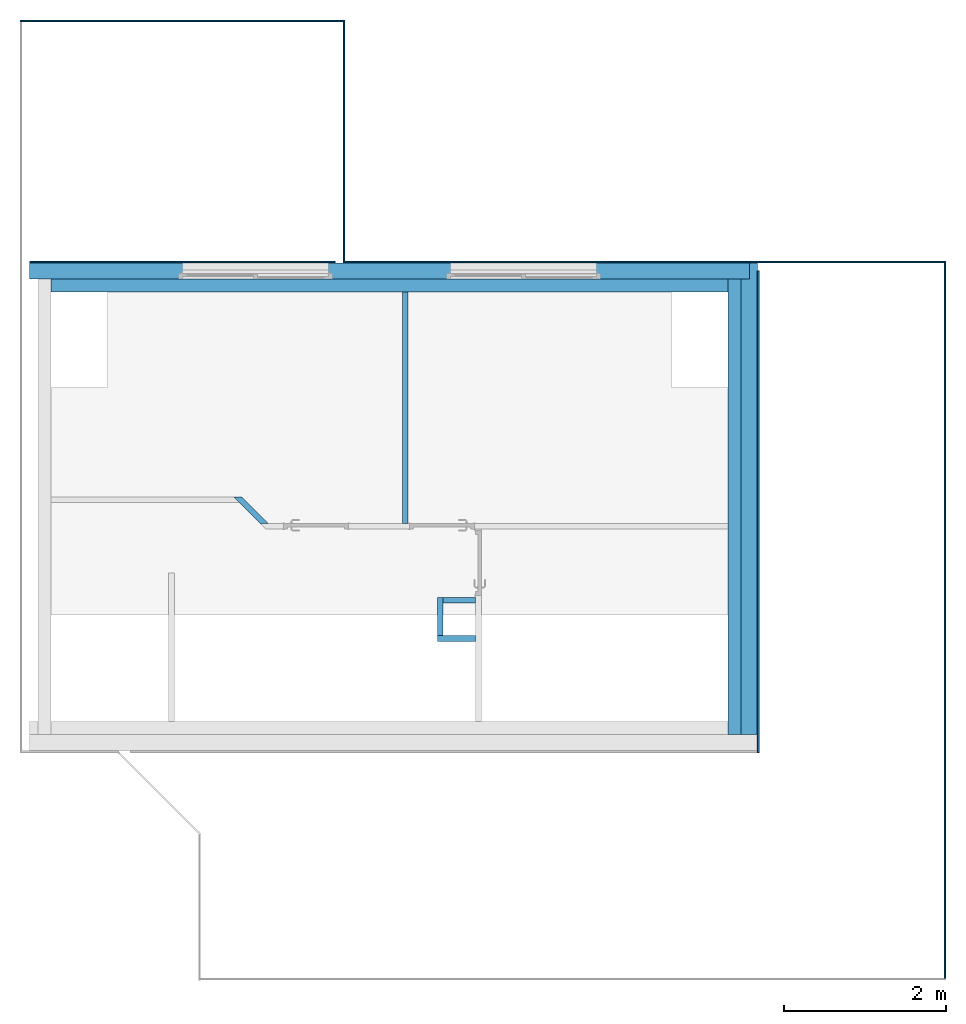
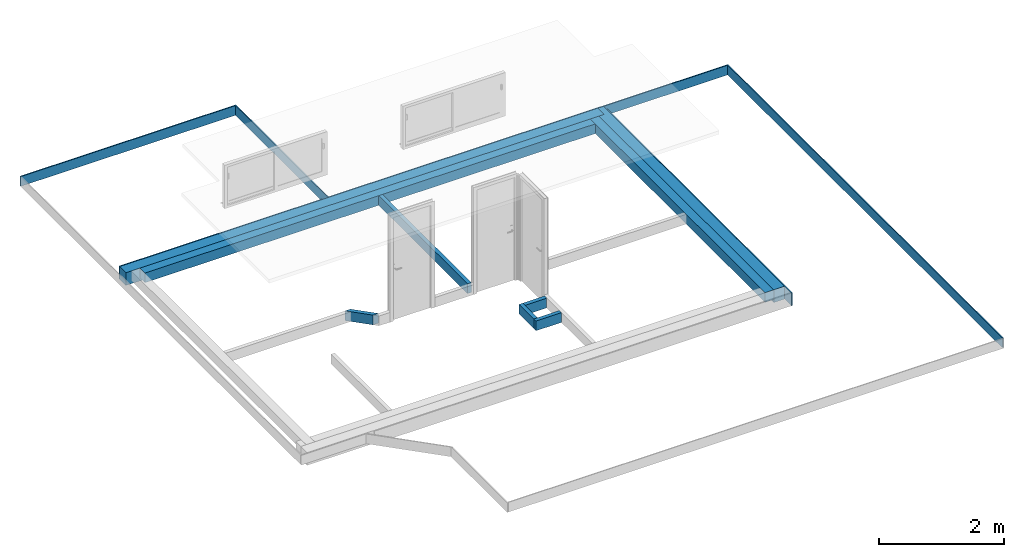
# One storey, part 4 of 5: 16 walls.
"""IFC2X3 building model written with IfcOpenShell, lengths in centimetres."""

from ifc_helpers import new_model, entity, si_unit, converted_unit, derived_unit, direction, frame, frame_2d, origin, place, context, subcontext, project, spatial, polyline, rectangle, outline, extrude, clip, halfspace, material, layer, layer_set, layer_usage, type_object, element, save


model = new_model("IFC2X3")

# Units and contexts
model_context = context("Model", 3, precision=0.001, world=origin(), true_north=direction((6.12303176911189e-17, 1.0)))
body_context = subcontext(model_context, "Body", "Model", "MODEL_VIEW")
ifc_project = project(units=[si_unit("LENGTHUNIT", "METRE", prefix="CENTI"), si_unit("AREAUNIT", "SQUARE_METRE"), si_unit("VOLUMEUNIT", "CUBIC_METRE"), converted_unit("PLANEANGLEUNIT", "DEGREE", entity("IfcRatioMeasure", 0.0174532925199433), si_unit("PLANEANGLEUNIT", "RADIAN"), dimensions=[0, 0, 0, 0, 0, 0, 0]), si_unit("MASSUNIT", "GRAM", prefix="KILO"), derived_unit("MASSDENSITYUNIT", [(si_unit("MASSUNIT", "GRAM", prefix="KILO"), 1), (si_unit("LENGTHUNIT", "METRE"), -3)]), derived_unit("MOMENTOFINERTIAUNIT", [(si_unit("LENGTHUNIT", "METRE"), 4)]), si_unit("TIMEUNIT", "SECOND"), si_unit("FREQUENCYUNIT", "HERTZ"), si_unit("THERMODYNAMICTEMPERATUREUNIT", "DEGREE_CELSIUS"), derived_unit("THERMALTRANSMITTANCEUNIT", [(si_unit("MASSUNIT", "GRAM", prefix="KILO"), 1), (si_unit("THERMODYNAMICTEMPERATUREUNIT", "KELVIN"), -1), (si_unit("TIMEUNIT", "SECOND"), -3)]), derived_unit("VOLUMETRICFLOWRATEUNIT", [(si_unit("LENGTHUNIT", "METRE"), 3), (si_unit("TIMEUNIT", "SECOND"), -1)]), si_unit("ELECTRICCURRENTUNIT", "AMPERE"), si_unit("ELECTRICVOLTAGEUNIT", "VOLT"), si_unit("POWERUNIT", "WATT"), si_unit("FORCEUNIT", "NEWTON", prefix="KILO"), si_unit("ILLUMINANCEUNIT", "LUX"), si_unit("LUMINOUSFLUXUNIT", "LUMEN"), si_unit("LUMINOUSINTENSITYUNIT", "CANDELA"), derived_unit("USERDEFINED", [(si_unit("MASSUNIT", "GRAM", prefix="KILO"), -1), (si_unit("LENGTHUNIT", "METRE"), -2), (si_unit("TIMEUNIT", "SECOND"), 3), (si_unit("LUMINOUSFLUXUNIT", "LUMEN"), 1)]), derived_unit("LINEARVELOCITYUNIT", [(si_unit("LENGTHUNIT", "METRE"), 1), (si_unit("TIMEUNIT", "SECOND"), -1)]), si_unit("PRESSUREUNIT", "PASCAL"), derived_unit("USERDEFINED", [(si_unit("LENGTHUNIT", "METRE"), -2), (si_unit("MASSUNIT", "GRAM", prefix="KILO"), 1), (si_unit("TIMEUNIT", "SECOND"), -2)]), derived_unit("LINEARFORCEUNIT", [(si_unit("MASSUNIT", "GRAM", prefix="KILO"), 1), (si_unit("LENGTHUNIT", "METRE"), 1), (si_unit("TIMEUNIT", "SECOND"), -2), (si_unit("LENGTHUNIT", "METRE"), -1)]), derived_unit("PLANARFORCEUNIT", [(si_unit("MASSUNIT", "GRAM", prefix="KILO"), 1), (si_unit("LENGTHUNIT", "METRE"), 1), (si_unit("TIMEUNIT", "SECOND"), -2), (si_unit("LENGTHUNIT", "METRE"), -2)])], contexts=[model_context])

# Site, building, storey
site_placement = place(None, origin())
site = spatial("IfcSite", under=ifc_project, at=site_placement, Name="Surface", CompositionType="ELEMENT")
building_placement = place(site_placement, origin())
building = spatial("IfcBuilding", under=site, at=building_placement, CompositionType="ELEMENT")
storey_placement = place(building_placement, frame((0.0, 0.0, 263.0)))
storey = spatial("IfcBuildingStorey", under=building, at=storey_placement, Name="2.63_Etage", CompositionType="ELEMENT", Elevation=263.0)

# Walls
ifc_material_1 = material(Name="Maçonnerie - Béton")
ifc_layer_1 = layer(ifc_material_1, 20.0)
ifc_layer_set_1 = layer_set([ifc_layer_1], Name="Mur de base:Mur 20")
ifc_layer_usage_1 = layer_usage(ifc_layer_set_1, "AXIS2", "POSITIVE", -10.0)
wall_type_1 = type_object("IfcWallType", Name="Mur de base:Mur 20", PredefinedType="STANDARD", material=ifc_layer_set_1)
wall_1_placement = place(storey_placement, frame((-882.177260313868, 711.99231712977, -6.0), z_axis=(0.0, 0.0, 1.0), x_axis=(-1.0, 0.0, 0.0)))
element("IfcWallStandardCase", 1, at=wall_1_placement, inside=storey, type_object=wall_type_1, material=ifc_layer_usage_1, Name="Mur de base:Mur 20", ObjectType="Mur de base:Mur 20", context=body_context, shape_type="Clipping", body=[
    clip(extrude(rectangle(XDim=896.000000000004, YDim=20.0, at=frame_2d((448.000000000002, -4.44089209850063e-15), x_axis=(-1.0, 0.0))), origin(), (0.0, 0.0, 1.0), 24.9999999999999), halfspace(frame((0.0, 0.0, -6.0)), True)),
])
ifc_layer_usage_2 = layer_usage(ifc_layer_set_1, "AXIS2", "NEGATIVE", 10.0)
wall_2_placement = place(storey_placement, frame((-892.177260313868, 721.992317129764, -6.0), z_axis=(0.0, 0.0, 1.0), x_axis=(0.0, -1.0, 0.0)))
element("IfcWallStandardCase", 2, at=wall_2_placement, inside=storey, type_object=wall_type_1, material=ifc_layer_usage_2, Name="Mur de base:Mur 20", ObjectType="Mur de base:Mur 20", context=body_context, shape_type="Clipping", body=[
    clip(extrude(outline(polyline([(581.0, -10.0), (581.0, 10.0), (0.0, 10.0), (0.0, 0.0), (20.0, 0.0), (20.0, -10.0), (581.0, -10.0)])), origin(), (0.0, 0.0, 1.0), 24.9999999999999), halfspace(frame((0.0, 0.0, -6.0)), True)),
])
ifc_material_2 = material(Name="Maçonnerie - Enduit")
ifc_layer_2 = layer(ifc_material_2, 2.0)
ifc_layer_set_2 = layer_set([ifc_layer_2], Name="Mur de base:Enduit 2")
ifc_layer_usage_3 = layer_usage(ifc_layer_set_2, "AXIS2", "POSITIVE", -1.0)
wall_type_2 = type_object("IfcWallType", Name="Mur de base:Enduit 2", PredefinedType="STANDARD", material=ifc_layer_set_2)
wall_3_placement = place(storey_placement, frame((-651.177260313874, -159.007682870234, 0.0), z_axis=(0.0, 0.0, 1.0), x_axis=(0.0, 1.0, 0.0)))
element("IfcWallStandardCase", 3, at=wall_3_placement, inside=storey, type_object=wall_type_2, material=ifc_layer_usage_3, Name="Mur de base:Enduit 2", ObjectType="Mur de base:Enduit 2", context=body_context, shape_type="Clipping", body=[
    clip(extrude(rectangle(XDim=882.999999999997, YDim=1.99999999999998, at=frame_2d((441.499999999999, 1.55431223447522e-15), x_axis=(-1.0, 0.0))), origin(), (0.0, 0.0, 1.0), 19.0), halfspace(frame((0.0, 0.0, -271.0)), True)),
])
ifc_layer_usage_4 = layer_usage(ifc_layer_set_2, "AXIS2", "POSITIVE", -1.0)
wall_4_placement = place(storey_placement, frame((-652.177260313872, 722.992317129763, 0.0), z_axis=(0.0, 0.0, 1.0), x_axis=(-1.0, 0.0, 0.0)))
element("IfcWallStandardCase", 4, at=wall_4_placement, inside=storey, type_object=wall_type_2, material=ifc_layer_usage_4, Name="Mur de base:Enduit 2", ObjectType="Mur de base:Enduit 2", context=body_context, shape_type="Clipping", body=[
    clip(extrude(rectangle(XDim=239.999999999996, YDim=1.99999999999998, at=frame_2d((119.999999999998, 7.27196081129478e-15), x_axis=(-1.0, 0.0))), origin(), (0.0, 0.0, 1.0), 19.0), halfspace(frame((0.0, 0.0, -271.0)), True)),
])
ifc_layer_usage_5 = layer_usage(ifc_layer_set_2, "AXIS2", "POSITIVE", -1.0)
wall_5_placement = place(storey_placement, frame((-1391.17726031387, 723.992317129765, 0.0), z_axis=(0.0, 0.0, 1.0), x_axis=(0.0, 1.0, 0.0)))
element("IfcWallStandardCase", 5, at=wall_5_placement, inside=storey, type_object=wall_type_2, material=ifc_layer_usage_5, Name="Mur de base:Enduit 2", ObjectType="Mur de base:Enduit 2", context=body_context, shape_type="Clipping", body=[
    clip(extrude(rectangle(XDim=297.0, YDim=1.99999999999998, at=frame_2d((148.5, 1.49880108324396e-15), x_axis=(-1.0, 0.0))), origin(), (0.0, 0.0, 1.0), 19.0), halfspace(frame((0.0, 0.0, -271.0)), True)),
])
ifc_layer_usage_6 = layer_usage(ifc_layer_set_2, "AXIS2", "POSITIVE", -1.0)
wall_6_placement = place(storey_placement, frame((-1392.17726031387, 1019.99231712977, 0.0), z_axis=(0.0, 0.0, 1.0), x_axis=(-1.0, 0.0, 0.0)))
element("IfcWallStandardCase", 6, at=wall_6_placement, inside=storey, type_object=wall_type_2, material=ifc_layer_usage_6, Name="Mur de base:Enduit 2", ObjectType="Mur de base:Enduit 2", context=body_context, shape_type="Clipping", body=[
    clip(extrude(rectangle(XDim=398.0, YDim=1.99999999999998, at=frame_2d((199.0, 3.27515792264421e-15), x_axis=(-1.0, 0.0))), origin(), (0.0, 0.0, 1.0), 19.0), halfspace(frame((0.0, 0.0, -271.0)), True)),
])
ifc_layer_usage_7 = layer_usage(ifc_layer_set_2, "AXIS2", "POSITIVE", -1.0)
wall_7_placement = place(storey_placement, frame((-882.177260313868, 722.992317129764, 0.0), z_axis=(0.0, 0.0, 1.0), x_axis=(-1.0, 0.0, 0.0)))
element("IfcWallStandardCase", 7, at=wall_7_placement, inside=storey, type_object=wall_type_2, material=ifc_layer_usage_7, Name="Mur de base:Enduit 2", ObjectType="Mur de base:Enduit 2", context=body_context, shape_type="Clipping", body=[
    clip(extrude(rectangle(XDim=500.000000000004, YDim=1.99999999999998, at=frame_2d((260.000000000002, 2.48134846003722e-14), x_axis=(-1.0, 0.0))), origin(), (0.0, 0.0, 1.0), 19.0), halfspace(frame((0.0, 0.0, -271.0)), True)),
])
ifc_layer_usage_8 = layer_usage(ifc_layer_set_2, "AXIS2", "NEGATIVE", 1.0)
wall_8_placement = place(storey_placement, frame((-881.177260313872, 711.992317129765, -6.0), z_axis=(0.0, 0.0, 1.0), x_axis=(0.0, -1.0, 0.0)))
element("IfcWallStandardCase", 8, at=wall_8_placement, inside=storey, type_object=wall_type_2, material=ifc_layer_usage_8, Name="Mur de base:Enduit 2", ObjectType="Mur de base:Enduit 2", context=body_context, shape_type="Clipping", body=[
    clip(extrude(rectangle(XDim=592.999999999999, YDim=1.99999999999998, at=frame_2d((296.5, -7.71605002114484e-15), x_axis=(-1.0, 0.0))), origin(), (0.0, 0.0, 1.0), 24.9999999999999), halfspace(frame((0.0, 0.0, -6.0)), True)),
])
ifc_layer_usage_9 = layer_usage(ifc_layer_set_2, "AXIS2", "NEGATIVE", 1.0)
wall_9_placement = place(storey_placement, frame((-1778.17726031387, 722.992317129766, -6.0)))
element("IfcWallStandardCase", 9, at=wall_9_placement, inside=storey, type_object=wall_type_2, material=ifc_layer_usage_9, Name="Mur de base:Enduit 2", ObjectType="Mur de base:Enduit 2", context=body_context, shape_type="Clipping", body=[
    clip(extrude(rectangle(XDim=376.0, YDim=1.99999999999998, at=frame_2d((188.0, 3.3362201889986e-14), x_axis=(-1.0, 0.0))), origin(), (0.0, 0.0, 1.0), 24.9999999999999), halfspace(frame((0.0, 0.0, -6.0)), True)),
])
ifc_material_3 = material(Name="Isolant rigide")
ifc_layer_3 = layer(ifc_material_3, 16.0)
ifc_layer_set_3 = layer_set([ifc_layer_3], Name="Mur de base:Doublage 16")
ifc_layer_usage_10 = layer_usage(ifc_layer_set_3, "AXIS2", "POSITIVE", -8.0)
wall_type_3 = type_object("IfcWallType", Name="Mur de base:Doublage 16", PredefinedType="STANDARD", material=ifc_layer_set_3)
wall_10_placement = place(storey_placement, frame((-910.177260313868, 701.99231712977, 0.0), z_axis=(0.0, 0.0, 1.0), x_axis=(0.0, -1.0, 0.0)))
element("IfcWallStandardCase", 10, at=wall_10_placement, inside=storey, type_object=wall_type_3, material=ifc_layer_usage_10, Name="Mur de base:Doublage 16", ObjectType="Mur de base:Doublage 16", context=body_context, shape_type="Clipping", body=[
    clip(extrude(rectangle(XDim=561.0, YDim=16.0, at=frame_2d((280.5, 0.0), x_axis=(-1.0, 0.0))), origin(), (0.0, 0.0, 1.0), 19.0), halfspace(origin(), True)),
])
ifc_layer_usage_11 = layer_usage(ifc_layer_set_3, "AXIS2", "POSITIVE", -8.0)
wall_11_placement = place(storey_placement, frame((-1752.17726031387, 693.992317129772, 0.0)))
element("IfcWallStandardCase", 11, at=wall_11_placement, inside=storey, type_object=wall_type_3, material=ifc_layer_usage_11, Name="Mur de base:Doublage 16", ObjectType="Mur de base:Doublage 16", context=body_context, shape_type="Clipping", body=[
    clip(extrude(rectangle(XDim=834.000000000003, YDim=16.0, at=frame_2d((417.000000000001, 0.0), x_axis=(-1.0, 0.0))), origin(), (0.0, 0.0, 1.0), 19.0), halfspace(origin(), True)),
])
ifc_material_4 = material(Name="Mur par défaut")
ifc_layer_4 = layer(ifc_material_4, 7.0)
ifc_layer_set_4 = layer_set([ifc_layer_4], Name="Mur de base:Cloison 7cm")
ifc_layer_usage_12 = layer_usage(ifc_layer_set_4, "AXIS2", "POSITIVE", -3.5)
wall_type_4 = type_object("IfcWallType", Name="Mur de base:Cloison 7cm", PredefinedType="STANDARD", material=ifc_layer_set_4)
wall_12_placement = place(storey_placement, frame((-1486.75263911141, 398.517443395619, 0.0), z_axis=(0.0, 0.0, 1.0), x_axis=(-0.707106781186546, 0.707106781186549, 0.0)))
element("IfcWallStandardCase", 12, at=wall_12_placement, inside=storey, type_object=wall_type_4, material=ifc_layer_usage_12, Name="Mur de base:Cloison 7cm", ObjectType="Mur de base:Cloison 7cm", context=body_context, shape_type="Clipping", body=[
    clip(extrude(outline(polyline([(46.6690475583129, -3.5), (53.6690475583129, 3.50000000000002), (43.7695526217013, 3.50000000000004), (7.0, 3.50000000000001), (0.0, -3.49999999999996), (46.6690475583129, -3.5)])), origin(), (0.0, 0.0, 1.0), 19.0), halfspace(origin(), True)),
])
ifc_layer_usage_13 = layer_usage(ifc_layer_set_4, "AXIS2", "POSITIVE", -3.5)
wall_13_placement = place(storey_placement, frame((-1315.67726031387, 685.992317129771, 0.0), z_axis=(0.0, 0.0, 1.0), x_axis=(0.0, -1.0, 0.0)))
element("IfcWallStandardCase", 13, at=wall_13_placement, inside=storey, type_object=wall_type_4, material=ifc_layer_usage_13, Name="Mur de base:Cloison 7cm", ObjectType="Mur de base:Cloison 7cm", context=body_context, shape_type="Clipping", body=[
    clip(extrude(rectangle(XDim=285.0, YDim=7.00000000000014, at=frame_2d((142.5, 0.0), x_axis=(-1.0, 0.0))), origin(), (0.0, 0.0, 1.0), 19.0), halfspace(origin(), True)),
])
ifc_layer_usage_14 = layer_usage(ifc_layer_set_4, "AXIS2", "NEGATIVE", 3.5)
wall_14_placement = place(storey_placement, frame((-1229.17726031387, 259.49231712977, 0.0), z_axis=(0.0, 0.0, 1.0), x_axis=(-1.0, 0.0, 0.0)))
element("IfcWallStandardCase", 14, at=wall_14_placement, inside=storey, type_object=wall_type_4, material=ifc_layer_usage_14, Name="Mur de base:Cloison 7cm", ObjectType="Mur de base:Cloison 7cm", context=body_context, shape_type="Clipping", body=[
    clip(extrude(rectangle(XDim=46.9999999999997, YDim=7.00000000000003, at=frame_2d((23.4999999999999, 0.0), x_axis=(-1.0, 0.0))), origin(), (0.0, 0.0, 1.0), 19.0), halfspace(origin(), True)),
])
ifc_layer_usage_15 = layer_usage(ifc_layer_set_4, "AXIS2", "NEGATIVE", 3.5)
wall_15_placement = place(storey_placement, frame((-1272.67726031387, 262.99231712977, 0.0), z_axis=(0.0, 0.0, 1.0), x_axis=(0.0, 1.0, 0.0)))
element("IfcWallStandardCase", 15, at=wall_15_placement, inside=storey, type_object=wall_type_4, material=ifc_layer_usage_15, Name="Mur de base:Cloison 7cm", ObjectType="Mur de base:Cloison 7cm", context=body_context, shape_type="Clipping", body=[
    clip(extrude(rectangle(XDim=46.9999999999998, YDim=7.00000000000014, at=frame_2d((23.4999999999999, 0.0), x_axis=(-1.0, 0.0))), origin(), (0.0, 0.0, 1.0), 19.0), halfspace(origin(), True)),
])
ifc_layer_usage_16 = layer_usage(ifc_layer_set_4, "AXIS2", "NEGATIVE", 3.5)
wall_16_placement = place(storey_placement, frame((-1269.17726031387, 306.49231712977, 0.0)))
element("IfcWallStandardCase", 16, at=wall_16_placement, inside=storey, type_object=wall_type_4, material=ifc_layer_usage_16, Name="Mur de base:Cloison 7cm", ObjectType="Mur de base:Cloison 7cm", context=body_context, shape_type="Clipping", body=[
    clip(extrude(rectangle(XDim=39.9999999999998, YDim=7.00000000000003, at=frame_2d((19.9999999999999, -1.19904086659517e-14), x_axis=(-1.0, 0.0))), origin(), (0.0, 0.0, 1.0), 19.0), halfspace(origin(), True)),
])

save(model, "model.ifc")
